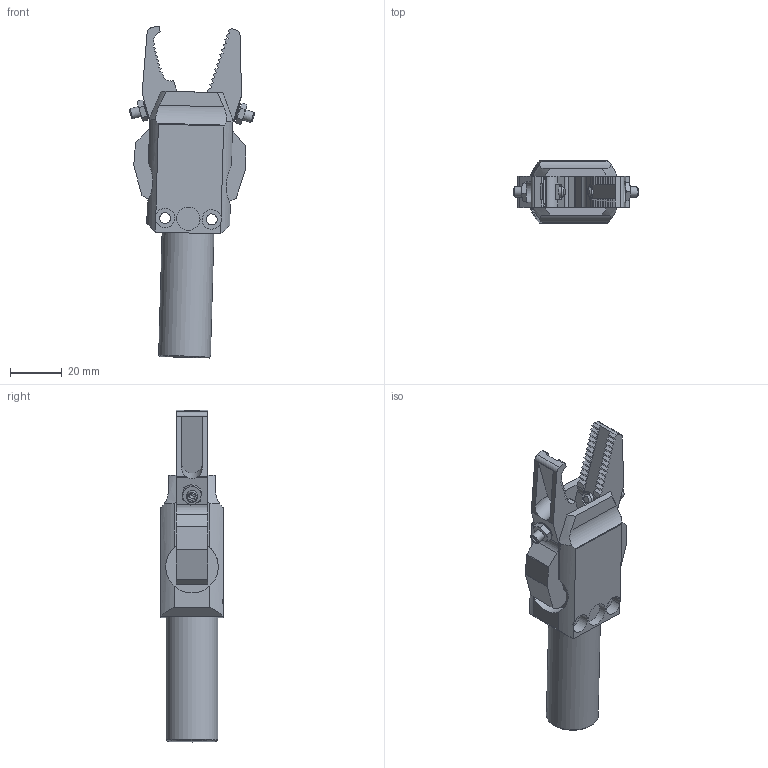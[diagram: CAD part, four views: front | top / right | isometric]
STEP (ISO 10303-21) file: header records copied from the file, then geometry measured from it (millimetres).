
FILE_DESCRIPTION(('STEP AP214'),'1');
FILE_NAME('CA.GTS.1004.1214.stp','2021-09-22T13:52:22',(' '),(' '),'Spatial InterOp 3D',' ',' ');
FILE_SCHEMA(('AUTOMOTIVE_DESIGN { 1 0 10303 214 1 1 1 1 }'));
Length unit declared in the file: millimetre
Products named in the file (10): CA.GTS.1004.1214; GTS.1004.01 per sito; GTS.04.14; PAP.0405504; V.STM4X20; D.4; R.4.SCH; GTS.1004.14; GTS.04.12; GTS.1004.12
Assembly tree (15 placements, depth 3):
  CA.GTS.1004.1214
    GTS.1004.01 per sito
    GTS.04.14
      PAP.0405504  x2
      V.STM4X20
      D.4
      R.4.SCH
      GTS.1004.14
    GTS.04.12
      GTS.1004.12
      PAP.0405504  x2
      R.4.SCH
      V.STM4X20
      D.4
Bounding box: 48.37 x 24 x 128.12 mm (x, y, z)
Volume: 53576.6 mm3; surface area: 21228.4 mm2
Topology: 13 solids, 13 shells, 723 faces, 2031 edges, 1334 vertices
Faces by surface type: plane 601, cylinder 81, cone 39, extrusion 2
Full cylindrical faces by diameter (mm): 3.242 x2, 3.3 x2, 4 x6, 4.05 x2, 4.2 x2, 4.3 x2, 5.5 x6, 6 x2, 7 x2, 9 x2, 20 x1, 20.3 x2
Entity records: 20049 total; most frequent: CARTESIAN_POINT 3139, ORIENTED_EDGE 2618, DIRECTION 2597, EDGE_CURVE 1309, VECTOR 877, LINE 875, VERTEX_POINT 871, AXIS2_PLACEMENT_3D 860
